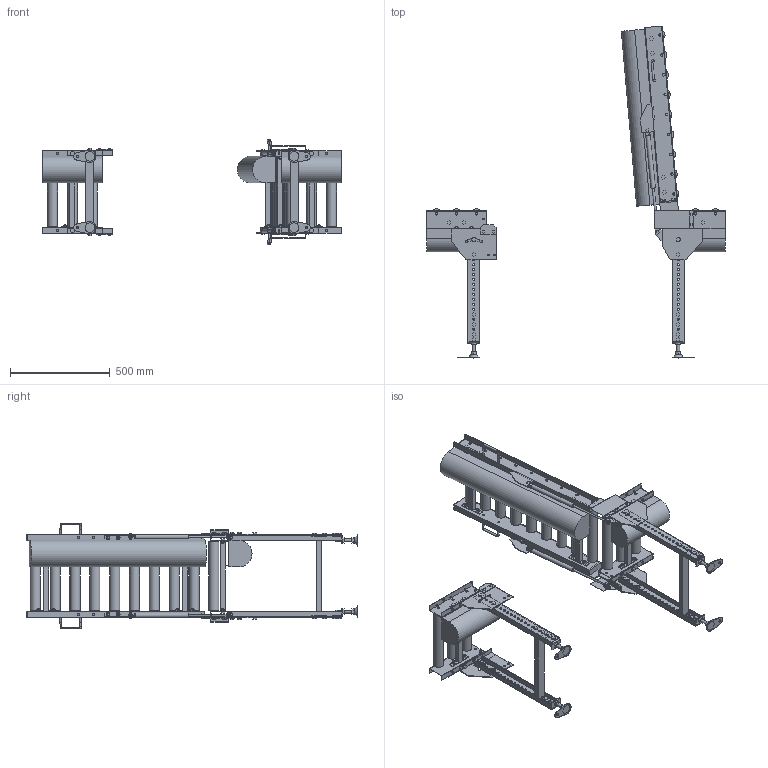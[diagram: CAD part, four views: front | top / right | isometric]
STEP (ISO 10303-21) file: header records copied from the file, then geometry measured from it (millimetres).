
FILE_DESCRIPTION( (''), '2;1');
FILE_NAME ('WEB-MCD50-355-100-90-L-HU.stp','2025-07-01T16:00:13',(''),(''),'spGate 20.6.2 (****-****-****-****)','','');
FILE_SCHEMA (('AUTOMOTIVE_DESIGN'));
Length unit declared in the file: millimetre
Products named in the file (21): WEB-MCD50-355-100-90-L-HU; TEMP_X_T-prt0; TEMP_X_T-prt1; TEMP_X_T-prt2; TEMP_X_T-prt3; TEMP_X_T-prt4; TEMP_X_T-prt5; TEMP_X_T-prt6; TEMP_X_T-prt7; TEMP_X_T-prt8; TEMP_X_T-prt9; TEMP_X_T-prt10; TEMP_X_T-prt11; TEMP_X_T-prt12; TEMP_X_T-prt13; TEMP_X_T-prt14; TEMP_X_T-prt15; TEMP_X_T-prt16; TEMP_X_T-prt17; TEMP_X_T-prt18; TEMP_X_T-prt19
Assembly tree (20 placements, depth 2):
  WEB-MCD50-355-100-90-L-HU
    TEMP_X_T-prt0
    TEMP_X_T-prt1
    TEMP_X_T-prt2
    TEMP_X_T-prt3
    TEMP_X_T-prt4
    TEMP_X_T-prt5
    TEMP_X_T-prt6
    TEMP_X_T-prt7
    TEMP_X_T-prt8
    TEMP_X_T-prt9
    TEMP_X_T-prt10
    TEMP_X_T-prt11
    TEMP_X_T-prt12
    TEMP_X_T-prt13
    TEMP_X_T-prt14
    TEMP_X_T-prt15
    TEMP_X_T-prt16
    TEMP_X_T-prt17
    TEMP_X_T-prt18
    TEMP_X_T-prt19
Bounding box: 1500 x 1665.85 x 531.39 mm (x, y, z)
Volume: 36411723.4 mm3; surface area: 3903193 mm2
Topology: 20 solids, 46 shells, 2554 faces, 6474 edges, 4258 vertices
Faces by surface type: plane 2110, cylinder 426, bspline 18
Full cylindrical faces by diameter (mm): 8 x8, 8.5 x8, 9 x20, 10 x58, 10.5 x96, 11 x8, 12 x32, 13 x12, 14 x4, 15 x6, 15.4 x2, 15.7 x2, 16 x10, 17 x4, 18 x6, 18.4 x28, 18.5 x8, 21 x12, 22 x2, 50.8 x15
Entity records: 130979 total; most frequent: CARTESIAN_POINT 14781, DIRECTION 13052, ORIENTED_EDGE 12948, COLOUR_RGB 9048, PRESENTATION_STYLE_ASSIGNMENT 9048, STYLED_ITEM 9048, EDGE_CURVE 6474, DRAUGHTING_PRE_DEFINED_CURVE_FONT 6474
